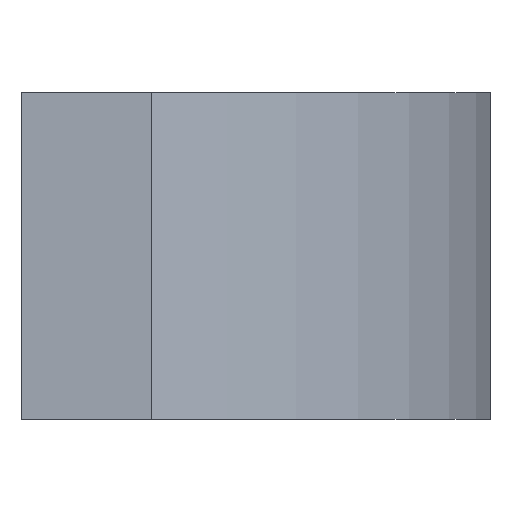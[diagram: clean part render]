
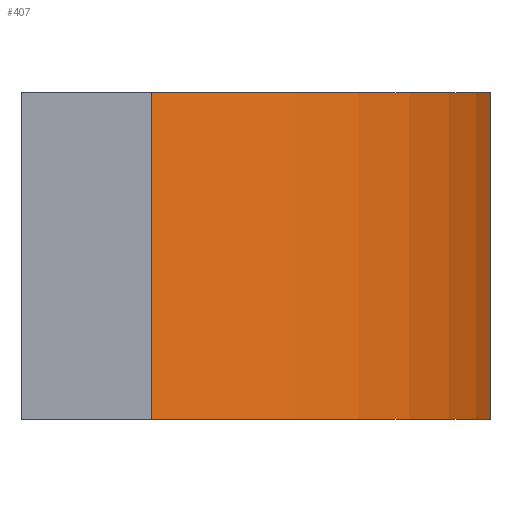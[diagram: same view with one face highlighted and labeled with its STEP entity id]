
A CAD part, left-side view. The second image highlights one B-rep face of the part: STEP entity #407.
In plain terms, the highlighted cylindrical face has radius 17.5 mm (diameter 35 mm), a partial arc.
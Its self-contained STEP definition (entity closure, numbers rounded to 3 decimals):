
#32 = PLANE('',#33);
#33 = AXIS2_PLACEMENT_3D('',#34,#35,#36);
#34 = CARTESIAN_POINT('',(0.,8.875,0.));
#35 = DIRECTION('',(0.,0.,1.));
#36 = DIRECTION('',(1.,0.,-0.));
#170 = VERTEX_POINT('',#171);
#171 = CARTESIAN_POINT('',(-16.771,3.875,0.));
#185 = PLANE('',#186);
#186 = AXIS2_PLACEMENT_3D('',#187,#188,#189);
#187 = CARTESIAN_POINT('',(-24.5,3.875,0.));
#188 = DIRECTION('',(0.,1.,0.));
#189 = DIRECTION('',(0.,0.,1.));
#197 = EDGE_CURVE('',#170,#198,#200,.T.);
#198 = VERTEX_POINT('',#199);
#199 = CARTESIAN_POINT('',(16.771,3.875,0.));
#200 = SURFACE_CURVE('',#201,(#206,#213),.PCURVE_S1.);
#201 = CIRCLE('',#202,17.5);
#202 = AXIS2_PLACEMENT_3D('',#203,#204,#205);
#203 = CARTESIAN_POINT('',(0.,8.875,0.));
#204 = DIRECTION('',(0.,0.,1.));
#205 = DIRECTION('',(1.,0.,0.));
#206 = PCURVE('',#32,#207);
#207 = DEFINITIONAL_REPRESENTATION('',(#208),#212);
#208 = CIRCLE('',#209,17.5);
#209 = AXIS2_PLACEMENT_2D('',#210,#211);
#210 = CARTESIAN_POINT('',(0.,0.));
#211 = DIRECTION('',(1.,0.));
#212 = ( GEOMETRIC_REPRESENTATION_CONTEXT(2) 
PARAMETRIC_REPRESENTATION_CONTEXT() REPRESENTATION_CONTEXT('2D SPACE',''
  ) );
#213 = PCURVE('',#214,#219);
#214 = CYLINDRICAL_SURFACE('',#215,17.5);
#215 = AXIS2_PLACEMENT_3D('',#216,#217,#218);
#216 = CARTESIAN_POINT('',(0.,8.875,0.));
#217 = DIRECTION('',(-0.,-0.,-1.));
#218 = DIRECTION('',(1.,0.,0.));
#219 = DEFINITIONAL_REPRESENTATION('',(#220),#224);
#220 = LINE('',#221,#222);
#221 = CARTESIAN_POINT('',(-0.,0.));
#222 = VECTOR('',#223,1.);
#223 = DIRECTION('',(-1.,0.));
#224 = ( GEOMETRIC_REPRESENTATION_CONTEXT(2) 
PARAMETRIC_REPRESENTATION_CONTEXT() REPRESENTATION_CONTEXT('2D SPACE',''
  ) );
#240 = PLANE('',#241);
#241 = AXIS2_PLACEMENT_3D('',#242,#243,#244);
#242 = CARTESIAN_POINT('',(-24.5,3.875,0.));
#243 = DIRECTION('',(0.,1.,0.));
#244 = DIRECTION('',(0.,0.,1.));
#273 = PLANE('',#274);
#274 = AXIS2_PLACEMENT_3D('',#275,#276,#277);
#275 = CARTESIAN_POINT('',(-24.5,3.875,12.));
#276 = DIRECTION('',(0.,0.,1.));
#277 = DIRECTION('',(1.,0.,0.));
#332 = EDGE_CURVE('',#333,#198,#335,.T.);
#333 = VERTEX_POINT('',#334);
#334 = CARTESIAN_POINT('',(16.771,3.875,12.));
#335 = SURFACE_CURVE('',#336,(#340,#347),.PCURVE_S1.);
#336 = LINE('',#337,#338);
#337 = CARTESIAN_POINT('',(16.771,3.875,0.));
#338 = VECTOR('',#339,1.);
#339 = DIRECTION('',(-0.,-0.,-1.));
#340 = PCURVE('',#240,#341);
#341 = DEFINITIONAL_REPRESENTATION('',(#342),#346);
#342 = LINE('',#343,#344);
#343 = CARTESIAN_POINT('',(0.,41.271));
#344 = VECTOR('',#345,1.);
#345 = DIRECTION('',(-1.,0.));
#346 = ( GEOMETRIC_REPRESENTATION_CONTEXT(2) 
PARAMETRIC_REPRESENTATION_CONTEXT() REPRESENTATION_CONTEXT('2D SPACE',''
  ) );
#347 = PCURVE('',#214,#348);
#348 = DEFINITIONAL_REPRESENTATION('',(#349),#353);
#349 = LINE('',#350,#351);
#350 = CARTESIAN_POINT('',(-5.993,0.));
#351 = VECTOR('',#352,1.);
#352 = DIRECTION('',(-0.,1.));
#353 = ( GEOMETRIC_REPRESENTATION_CONTEXT(2) 
PARAMETRIC_REPRESENTATION_CONTEXT() REPRESENTATION_CONTEXT('2D SPACE',''
  ) );
#407 = ADVANCED_FACE('',(#408),#214,.T.);
#408 = FACE_BOUND('',#409,.F.);
#409 = EDGE_LOOP('',(#410,#411,#412,#435));
#410 = ORIENTED_EDGE('',*,*,#332,.T.);
#411 = ORIENTED_EDGE('',*,*,#197,.F.);
#412 = ORIENTED_EDGE('',*,*,#413,.F.);
#413 = EDGE_CURVE('',#414,#170,#416,.T.);
#414 = VERTEX_POINT('',#415);
#415 = CARTESIAN_POINT('',(-16.771,3.875,12.));
#416 = SURFACE_CURVE('',#417,(#421,#428),.PCURVE_S1.);
#417 = LINE('',#418,#419);
#418 = CARTESIAN_POINT('',(-16.771,3.875,0.));
#419 = VECTOR('',#420,1.);
#420 = DIRECTION('',(-0.,-0.,-1.));
#421 = PCURVE('',#214,#422);
#422 = DEFINITIONAL_REPRESENTATION('',(#423),#427);
#423 = LINE('',#424,#425);
#424 = CARTESIAN_POINT('',(-3.431,0.));
#425 = VECTOR('',#426,1.);
#426 = DIRECTION('',(-0.,1.));
#427 = ( GEOMETRIC_REPRESENTATION_CONTEXT(2) 
PARAMETRIC_REPRESENTATION_CONTEXT() REPRESENTATION_CONTEXT('2D SPACE',''
  ) );
#428 = PCURVE('',#185,#429);
#429 = DEFINITIONAL_REPRESENTATION('',(#430),#434);
#430 = LINE('',#431,#432);
#431 = CARTESIAN_POINT('',(0.,7.729));
#432 = VECTOR('',#433,1.);
#433 = DIRECTION('',(-1.,0.));
#434 = ( GEOMETRIC_REPRESENTATION_CONTEXT(2) 
PARAMETRIC_REPRESENTATION_CONTEXT() REPRESENTATION_CONTEXT('2D SPACE',''
  ) );
#435 = ORIENTED_EDGE('',*,*,#436,.T.);
#436 = EDGE_CURVE('',#414,#333,#437,.T.);
#437 = SURFACE_CURVE('',#438,(#443,#450),.PCURVE_S1.);
#438 = CIRCLE('',#439,17.5);
#439 = AXIS2_PLACEMENT_3D('',#440,#441,#442);
#440 = CARTESIAN_POINT('',(0.,8.875,12.));
#441 = DIRECTION('',(0.,0.,1.));
#442 = DIRECTION('',(1.,0.,0.));
#443 = PCURVE('',#214,#444);
#444 = DEFINITIONAL_REPRESENTATION('',(#445),#449);
#445 = LINE('',#446,#447);
#446 = CARTESIAN_POINT('',(-0.,-12.));
#447 = VECTOR('',#448,1.);
#448 = DIRECTION('',(-1.,0.));
#449 = ( GEOMETRIC_REPRESENTATION_CONTEXT(2) 
PARAMETRIC_REPRESENTATION_CONTEXT() REPRESENTATION_CONTEXT('2D SPACE',''
  ) );
#450 = PCURVE('',#273,#451);
#451 = DEFINITIONAL_REPRESENTATION('',(#452),#456);
#452 = CIRCLE('',#453,17.5);
#453 = AXIS2_PLACEMENT_2D('',#454,#455);
#454 = CARTESIAN_POINT('',(24.5,5.));
#455 = DIRECTION('',(1.,0.));
#456 = ( GEOMETRIC_REPRESENTATION_CONTEXT(2) 
PARAMETRIC_REPRESENTATION_CONTEXT() REPRESENTATION_CONTEXT('2D SPACE',''
  ) );
